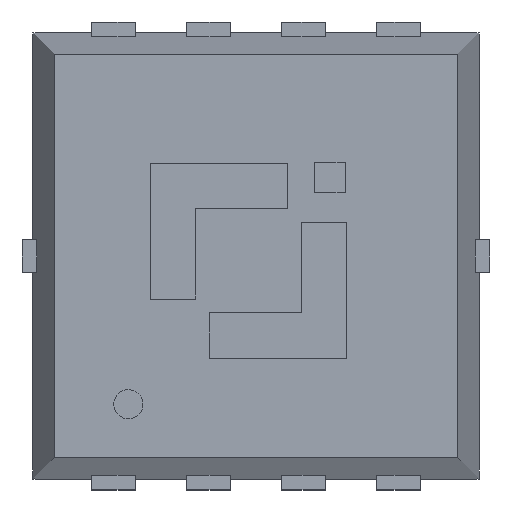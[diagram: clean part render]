
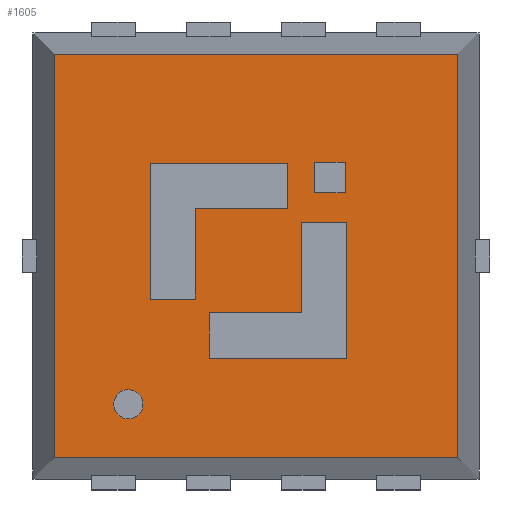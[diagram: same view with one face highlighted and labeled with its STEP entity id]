
A CAD part, top view. The second image highlights one B-rep face of the part: STEP entity #1605.
In plain terms, the highlighted planar face has unit normal (0, 0, 1).
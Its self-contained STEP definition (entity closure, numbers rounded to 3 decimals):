
#1032=CARTESIAN_POINT('',(-1.379,1.379,0.75));
#1033=VERTEX_POINT('',#1032);
#1040=CARTESIAN_POINT('',(1.379,1.379,0.75));
#1041=VERTEX_POINT('',#1040);
#1042=CARTESIAN_POINT('',(1.379,1.379,0.75));
#1043=DIRECTION('',(-1.,-0.,0.));
#1044=VECTOR('',#1043,2.758);
#1045=LINE('',#1042,#1044);
#1046=EDGE_CURVE('',#1041,#1033,#1045,.T.);
#1421=CARTESIAN_POINT('',(0.,0.,0.75));
#1422=DIRECTION('',(0.,0.,1.));
#1423=DIRECTION('',(1.,0.,0.));
#1424=AXIS2_PLACEMENT_3D('',#1421,#1422,#1423);
#1425=PLANE('',#1424);
#1426=CARTESIAN_POINT('',(-0.842,-0.92,0.75));
#1427=VERTEX_POINT('',#1426);
#1428=CARTESIAN_POINT('',(-0.773,-1.015,0.75));
#1429=VERTEX_POINT('',#1428);
#1430=CARTESIAN_POINT('',(-0.873,-1.015,0.75));
#1431=DIRECTION('',(0.,0.,1.));
#1432=DIRECTION('',(1.,0.,-0.));
#1433=AXIS2_PLACEMENT_3D('',#1430,#1431,#1432);
#1434=CIRCLE('',#1433,0.1);
#1435=EDGE_CURVE('',#1427,#1429,#1434,.T.);
#1436=ORIENTED_EDGE('',*,*,#1435,.F.);
#1437=CARTESIAN_POINT('',(-0.873,-1.015,0.75));
#1438=DIRECTION('',(0.,0.,1.));
#1439=DIRECTION('',(1.,0.,-0.));
#1440=AXIS2_PLACEMENT_3D('',#1437,#1438,#1439);
#1441=CIRCLE('',#1440,0.1);
#1442=EDGE_CURVE('',#1429,#1427,#1441,.T.);
#1443=ORIENTED_EDGE('',*,*,#1442,.F.);
#1444=EDGE_LOOP('',(#1436,#1443));
#1445=FACE_BOUND('',#1444,.T.);
#1446=CARTESIAN_POINT('',(1.379,-1.379,0.75));
#1447=VERTEX_POINT('',#1446);
#1448=CARTESIAN_POINT('',(1.379,-1.379,0.75));
#1449=DIRECTION('',(-0.,1.,0.));
#1450=VECTOR('',#1449,2.758);
#1451=LINE('',#1448,#1450);
#1452=EDGE_CURVE('',#1447,#1041,#1451,.T.);
#1453=ORIENTED_EDGE('',*,*,#1452,.T.);
#1454=ORIENTED_EDGE('',*,*,#1046,.T.);
#1455=CARTESIAN_POINT('',(-1.379,-1.379,0.75));
#1456=VERTEX_POINT('',#1455);
#1457=CARTESIAN_POINT('',(-1.379,1.379,0.75));
#1458=DIRECTION('',(0.,-1.,0.));
#1459=VECTOR('',#1458,2.758);
#1460=LINE('',#1457,#1459);
#1461=EDGE_CURVE('',#1033,#1456,#1460,.T.);
#1462=ORIENTED_EDGE('',*,*,#1461,.T.);
#1463=CARTESIAN_POINT('',(-1.379,-1.379,0.75));
#1464=DIRECTION('',(1.,0.,0.));
#1465=VECTOR('',#1464,2.758);
#1466=LINE('',#1463,#1465);
#1467=EDGE_CURVE('',#1456,#1447,#1466,.T.);
#1468=ORIENTED_EDGE('',*,*,#1467,.T.);
#1469=EDGE_LOOP('',(#1453,#1454,#1462,#1468));
#1470=FACE_BOUND('',#1469,.T.);
#1471=CARTESIAN_POINT('',(0.31,0.23,0.75));
#1472=VERTEX_POINT('',#1471);
#1473=CARTESIAN_POINT('',(0.62,0.23,0.75));
#1474=VERTEX_POINT('',#1473);
#1475=CARTESIAN_POINT('',(0.31,0.23,0.75));
#1476=DIRECTION('',(1.,0.,-0.));
#1477=VECTOR('',#1476,0.31);
#1478=LINE('',#1475,#1477);
#1479=EDGE_CURVE('',#1472,#1474,#1478,.T.);
#1480=ORIENTED_EDGE('',*,*,#1479,.T.);
#1481=CARTESIAN_POINT('',(0.62,-0.7,0.75));
#1482=VERTEX_POINT('',#1481);
#1483=CARTESIAN_POINT('',(0.62,0.23,0.75));
#1484=DIRECTION('',(0.,-1.,0.));
#1485=VECTOR('',#1484,0.93);
#1486=LINE('',#1483,#1485);
#1487=EDGE_CURVE('',#1474,#1482,#1486,.T.);
#1488=ORIENTED_EDGE('',*,*,#1487,.T.);
#1489=CARTESIAN_POINT('',(-0.32,-0.7,0.75));
#1490=VERTEX_POINT('',#1489);
#1491=CARTESIAN_POINT('',(0.62,-0.7,0.75));
#1492=DIRECTION('',(-1.,-0.,0.));
#1493=VECTOR('',#1492,0.94);
#1494=LINE('',#1491,#1493);
#1495=EDGE_CURVE('',#1482,#1490,#1494,.T.);
#1496=ORIENTED_EDGE('',*,*,#1495,.T.);
#1497=CARTESIAN_POINT('',(-0.32,-0.39,0.75));
#1498=VERTEX_POINT('',#1497);
#1499=CARTESIAN_POINT('',(-0.32,-0.7,0.75));
#1500=DIRECTION('',(0.,1.,0.));
#1501=VECTOR('',#1500,0.31);
#1502=LINE('',#1499,#1501);
#1503=EDGE_CURVE('',#1490,#1498,#1502,.T.);
#1504=ORIENTED_EDGE('',*,*,#1503,.T.);
#1505=CARTESIAN_POINT('',(0.31,-0.39,0.75));
#1506=VERTEX_POINT('',#1505);
#1507=CARTESIAN_POINT('',(-0.32,-0.39,0.75));
#1508=DIRECTION('',(1.,0.,0.));
#1509=VECTOR('',#1508,0.63);
#1510=LINE('',#1507,#1509);
#1511=EDGE_CURVE('',#1498,#1506,#1510,.T.);
#1512=ORIENTED_EDGE('',*,*,#1511,.T.);
#1513=CARTESIAN_POINT('',(0.31,-0.39,0.75));
#1514=DIRECTION('',(-0.,1.,0.));
#1515=VECTOR('',#1514,0.62);
#1516=LINE('',#1513,#1515);
#1517=EDGE_CURVE('',#1506,#1472,#1516,.T.);
#1518=ORIENTED_EDGE('',*,*,#1517,.T.);
#1519=EDGE_LOOP('',(#1480,#1488,#1496,#1504,#1512,#1518));
#1520=FACE_BOUND('',#1519,.T.);
#1521=CARTESIAN_POINT('',(-0.724,0.635,0.75));
#1522=VERTEX_POINT('',#1521);
#1523=CARTESIAN_POINT('',(0.216,0.635,0.75));
#1524=VERTEX_POINT('',#1523);
#1525=CARTESIAN_POINT('',(-0.724,0.635,0.75));
#1526=DIRECTION('',(1.,0.,-0.));
#1527=VECTOR('',#1526,0.94);
#1528=LINE('',#1525,#1527);
#1529=EDGE_CURVE('',#1522,#1524,#1528,.T.);
#1530=ORIENTED_EDGE('',*,*,#1529,.T.);
#1531=CARTESIAN_POINT('',(0.216,0.325,0.75));
#1532=VERTEX_POINT('',#1531);
#1533=CARTESIAN_POINT('',(0.216,0.635,0.75));
#1534=DIRECTION('',(0.,-1.,0.));
#1535=VECTOR('',#1534,0.31);
#1536=LINE('',#1533,#1535);
#1537=EDGE_CURVE('',#1524,#1532,#1536,.T.);
#1538=ORIENTED_EDGE('',*,*,#1537,.T.);
#1539=CARTESIAN_POINT('',(-0.414,0.325,0.75));
#1540=VERTEX_POINT('',#1539);
#1541=CARTESIAN_POINT('',(0.216,0.325,0.75));
#1542=DIRECTION('',(-1.,0.,0.));
#1543=VECTOR('',#1542,0.63);
#1544=LINE('',#1541,#1543);
#1545=EDGE_CURVE('',#1532,#1540,#1544,.T.);
#1546=ORIENTED_EDGE('',*,*,#1545,.T.);
#1547=CARTESIAN_POINT('',(-0.414,-0.295,0.75));
#1548=VERTEX_POINT('',#1547);
#1549=CARTESIAN_POINT('',(-0.414,0.325,0.75));
#1550=DIRECTION('',(0.,-1.,0.));
#1551=VECTOR('',#1550,0.62);
#1552=LINE('',#1549,#1551);
#1553=EDGE_CURVE('',#1540,#1548,#1552,.T.);
#1554=ORIENTED_EDGE('',*,*,#1553,.T.);
#1555=CARTESIAN_POINT('',(-0.724,-0.295,0.75));
#1556=VERTEX_POINT('',#1555);
#1557=CARTESIAN_POINT('',(-0.414,-0.295,0.75));
#1558=DIRECTION('',(-1.,-0.,0.));
#1559=VECTOR('',#1558,0.31);
#1560=LINE('',#1557,#1559);
#1561=EDGE_CURVE('',#1548,#1556,#1560,.T.);
#1562=ORIENTED_EDGE('',*,*,#1561,.T.);
#1563=CARTESIAN_POINT('',(-0.724,-0.295,0.75));
#1564=DIRECTION('',(0.,1.,0.));
#1565=VECTOR('',#1564,0.93);
#1566=LINE('',#1563,#1565);
#1567=EDGE_CURVE('',#1556,#1522,#1566,.T.);
#1568=ORIENTED_EDGE('',*,*,#1567,.T.);
#1569=EDGE_LOOP('',(#1530,#1538,#1546,#1554,#1562,#1568));
#1570=FACE_BOUND('',#1569,.T.);
#1571=CARTESIAN_POINT('',(0.4,0.64,0.75));
#1572=VERTEX_POINT('',#1571);
#1573=CARTESIAN_POINT('',(0.61,0.64,0.75));
#1574=VERTEX_POINT('',#1573);
#1575=CARTESIAN_POINT('',(0.4,0.64,0.75));
#1576=DIRECTION('',(1.,0.,0.));
#1577=VECTOR('',#1576,0.21);
#1578=LINE('',#1575,#1577);
#1579=EDGE_CURVE('',#1572,#1574,#1578,.T.);
#1580=ORIENTED_EDGE('',*,*,#1579,.T.);
#1581=CARTESIAN_POINT('',(0.61,0.43,0.75));
#1582=VERTEX_POINT('',#1581);
#1583=CARTESIAN_POINT('',(0.61,0.64,0.75));
#1584=DIRECTION('',(0.,-1.,0.));
#1585=VECTOR('',#1584,0.21);
#1586=LINE('',#1583,#1585);
#1587=EDGE_CURVE('',#1574,#1582,#1586,.T.);
#1588=ORIENTED_EDGE('',*,*,#1587,.T.);
#1589=CARTESIAN_POINT('',(0.4,0.43,0.75));
#1590=VERTEX_POINT('',#1589);
#1591=CARTESIAN_POINT('',(0.61,0.43,0.75));
#1592=DIRECTION('',(-1.,0.,0.));
#1593=VECTOR('',#1592,0.21);
#1594=LINE('',#1591,#1593);
#1595=EDGE_CURVE('',#1582,#1590,#1594,.T.);
#1596=ORIENTED_EDGE('',*,*,#1595,.T.);
#1597=CARTESIAN_POINT('',(0.4,0.43,0.75));
#1598=DIRECTION('',(0.,1.,0.));
#1599=VECTOR('',#1598,0.21);
#1600=LINE('',#1597,#1599);
#1601=EDGE_CURVE('',#1590,#1572,#1600,.T.);
#1602=ORIENTED_EDGE('',*,*,#1601,.T.);
#1603=EDGE_LOOP('',(#1580,#1588,#1596,#1602));
#1604=FACE_BOUND('',#1603,.T.);
#1605=ADVANCED_FACE('',(#1445,#1470,#1520,#1570,#1604),#1425,.T.);
